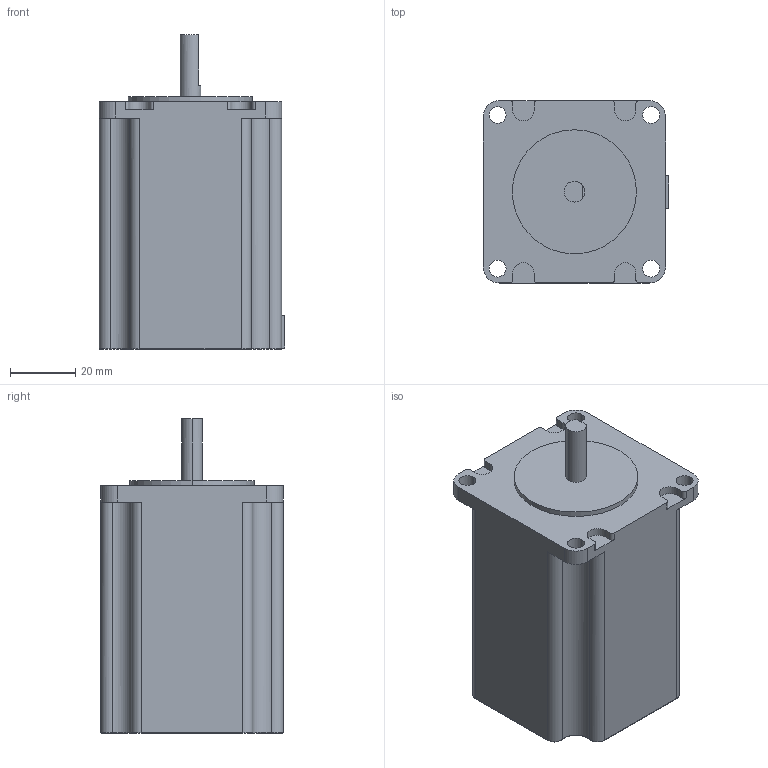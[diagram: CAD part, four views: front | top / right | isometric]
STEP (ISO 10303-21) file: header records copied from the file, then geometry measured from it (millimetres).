
FILE_DESCRIPTION((''),'2;1');
FILE_NAME('QL57HD76-034A','2022-03-23T10:23:43',('qingl'),(''),'CREO PARAMETRIC BY PTC INC, 2019224','CREO PARAMETRIC BY PTC INC, 2019224','');
FILE_SCHEMA(('CONFIG_CONTROL_DESIGN'));
Length unit declared in the file: millimetre
Products named in the file (1): QL57HD76-034A
Bounding box: 57 x 56 x 96.6 mm (x, y, z)
Volume: 214508.1 mm3; surface area: 23336.6 mm2
Topology: 1 solids, 2 shells, 223 faces, 618 edges, 408 vertices
Faces by surface type: cylinder 158, plane 43, torus 12, bspline 8, cone 2
Entity records: 10670 total; most frequent: CARTESIAN_POINT 5193, ORIENTED_EDGE 1236, DIRECTION 998, EDGE_CURVE 618, VERTEX_POINT 408, AXIS2_PLACEMENT_3D 377, VECTOR 244, LINE 244
